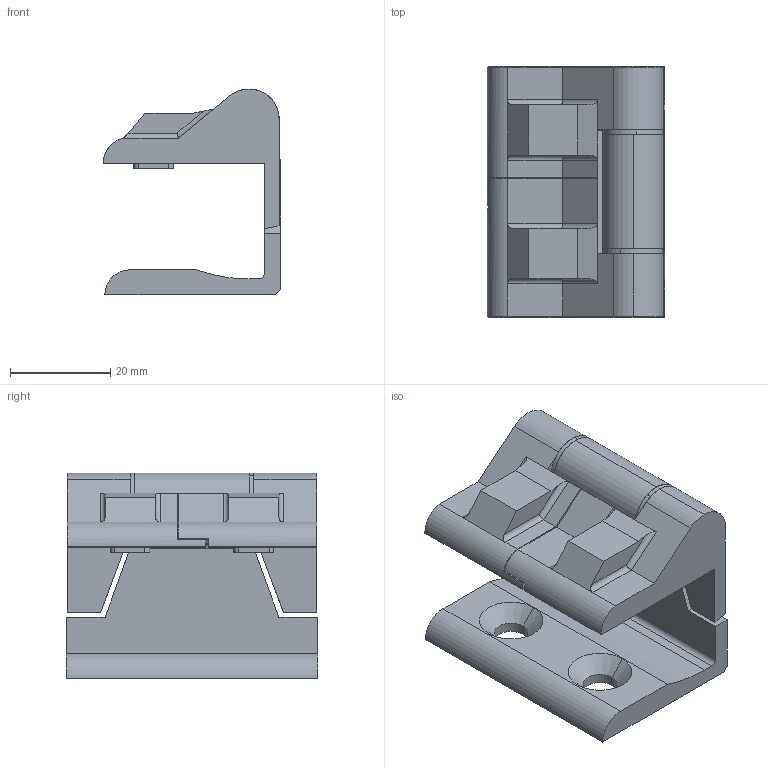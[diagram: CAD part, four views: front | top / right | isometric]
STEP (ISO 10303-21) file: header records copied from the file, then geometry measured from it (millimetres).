
FILE_DESCRIPTION (( 'STEP AP214' ), '1' );
FILE_NAME ('ZN130.STEP', '2010-02-09T12:55:45', ( 'Rak' ), ( 'ROZTOCZE' ), 'SwSTEP 2.0', 'SolidWorks 2004231', '' );
FILE_SCHEMA (( 'AUTOMOTIVE_DESIGN' ));
Length unit declared in the file: millimetre
Products named in the file (6): 3A.ZN130.01....00_ZN130 STANDARD1_Domyœlna; 3A.ZN130.03.00.00_Domyœlna1_Domyœlna; 3A.ZN130.02.00.00_Domyœlna1_Domyœlna; 3A.ZN130.05.00.00_Domyœlna1_Domyœlna; 3A.ZN130.04.00.00_Domyœlna1_Domyœlna; ZN130
Assembly tree (7 placements, depth 2):
  ZN130
    3A.ZN130.02.00.00_Domyœlna1_Domyœlna
    3A.ZN130.04.00.00_Domyœlna1_Domyœlna  x2
    3A.ZN130.05.00.00_Domyœlna1_Domyœlna  x2
    3A.ZN130.01....00_ZN130 STANDARD1_Domyœlna
    3A.ZN130.03.00.00_Domyœlna1_Domyœlna
Bounding box: 35.3 x 50 x 41 mm (x, y, z)
Volume: 24988.8 mm3; surface area: 15443.6 mm2
Topology: 7 solids, 7 shells, 392 faces, 924 edges, 604 vertices
Faces by surface type: plane 316, cylinder 56, cone 20
Entity records: 7653 total; most frequent: CARTESIAN_POINT 1342, DIRECTION 1288, ORIENTED_EDGE 1232, EDGE_CURVE 616, VECTOR 444, LINE 444, AXIS2_PLACEMENT_3D 422, VERTEX_POINT 404
